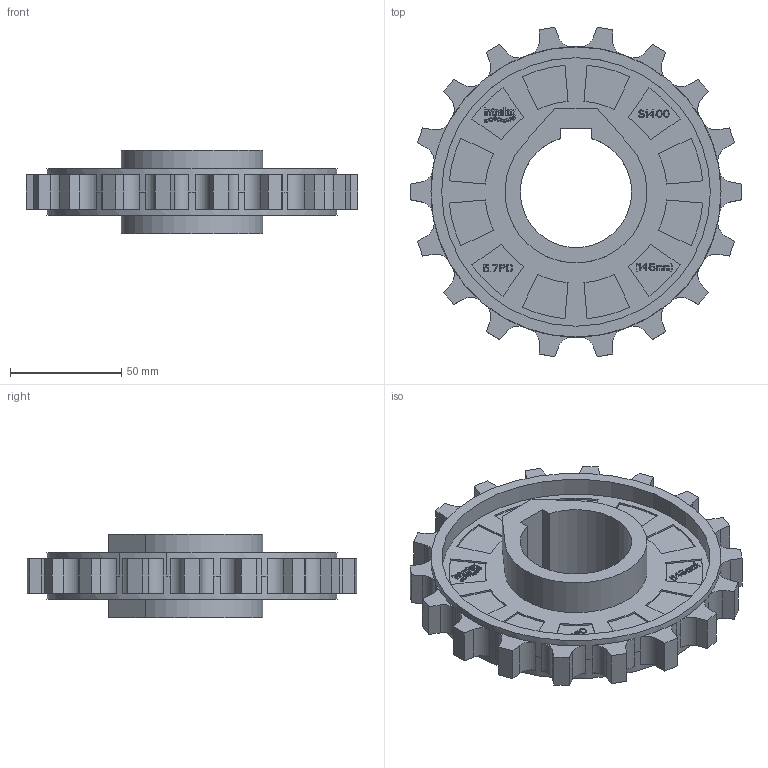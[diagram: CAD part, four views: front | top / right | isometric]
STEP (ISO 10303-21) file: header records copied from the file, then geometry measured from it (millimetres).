
FILE_DESCRIPTION((''),'2;1');
FILE_NAME('S1400_SPROCKET_57X2_50_RND','2008-12-12T',('jmumphre'),(''),'PRO/ENGINEER BY PARAMETRIC TECHNOLOGY CORPORATION, 2008150','PRO/ENGINEER BY PARAMETRIC TECHNOLOGY CORPORATION, 2008150','');
FILE_SCHEMA(('CONFIG_CONTROL_DESIGN'));
Length unit declared in the file: inch
Products named in the file (1): S1400_SPROCKET_57X2_50_RND
Bounding box: 149.05 x 148 x 37.59 mm (x, y, z)
Volume: 149712.2 mm3; surface area: 58715.1 mm2
Topology: 1 solids, 1 shells, 956 faces, 2659 edges, 1774 vertices
Faces by surface type: plane 759, cylinder 197
Entity records: 30447 total; most frequent: CARTESIAN_POINT 5389, ORIENTED_EDGE 5318, DIRECTION 5019, EDGE_CURVE 2659, VECTOR 2211, LINE 2211, VERTEX_POINT 1774, AXIS2_PLACEMENT_3D 1404
